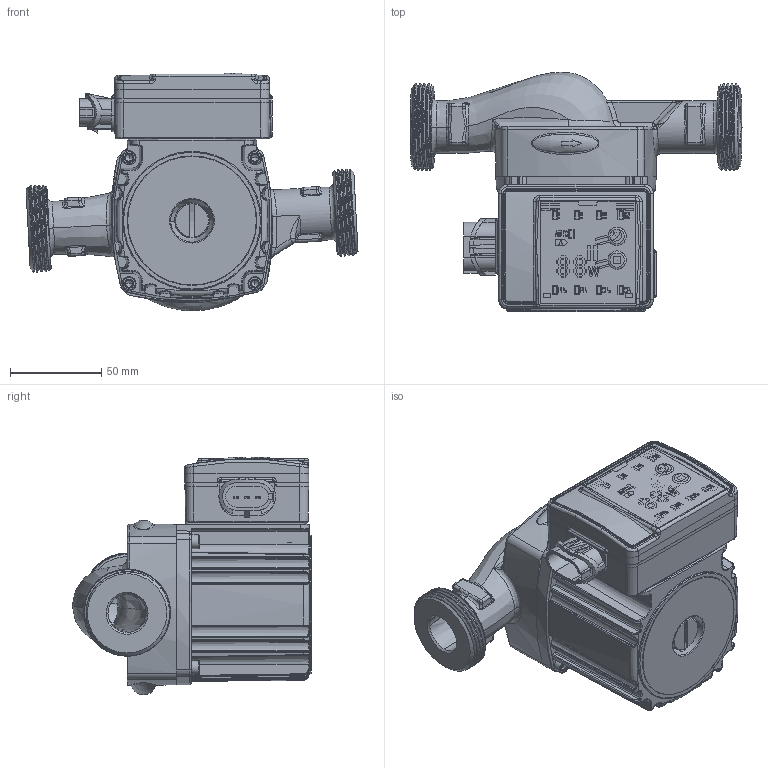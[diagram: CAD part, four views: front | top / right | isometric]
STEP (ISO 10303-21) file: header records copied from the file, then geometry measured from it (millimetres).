
FILE_DESCRIPTION(('STEP AP242'), '1');
FILE_NAME('VRS256EA.18', '2025-10-08T11:46:51', (''), (''), 'C3D Converter', 'C3D Toolkit', '');
FILE_SCHEMA(('AP242_MANAGED_MODEL_BASED_3D_ENGINEERING_MIM_LF { 1 0 10303 442 1 1 4 }'));
Length unit declared in the file: millimetre
Products named in the file (1): 25-4EA-180_ASM
Bounding box: 182.04 x 131.26 x 130.16 mm (x, y, z)
Volume: 332223.8 mm3; surface area: 218745.7 mm2
Topology: 17 solids, 17 shells, 3171 faces, 8366 edges, 5312 vertices
Faces by surface type: plane 2095, cylinder 468, bspline 349, torus 137, cone 109, sphere 12, extrusion 1
Full cylindrical faces by diameter (mm): 1.5 x11, 2 x2, 2.5 x4, 3.3 x2, 4.2 x4, 4.5 x4, 5 x4, 5.5 x4, 6.5 x1, 7.33 x2, 7.6 x4, 8.5 x1, 9.5 x2, 10.3 x1, 12 x1, 18 x1, 19 x1, 23.5 x1, 25.8 x1, 26 x1, 28 x2, 29 x1, 35.5 x1, 38.25 x1, 39 x1, 47.5 x2, 70.5 x1, 71 x1, 74 x1, 76 x2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
Entity records: 200181 total; most frequent: CARTESIAN_POINT 100593, ORIENTED_EDGE 16366, DIRECTION 13304, EDGE_CURVE 8183, VECTOR 5706, LINE 5705, VERTEX_POINT 5296, AXIS2_PLACEMENT_3D 3799
